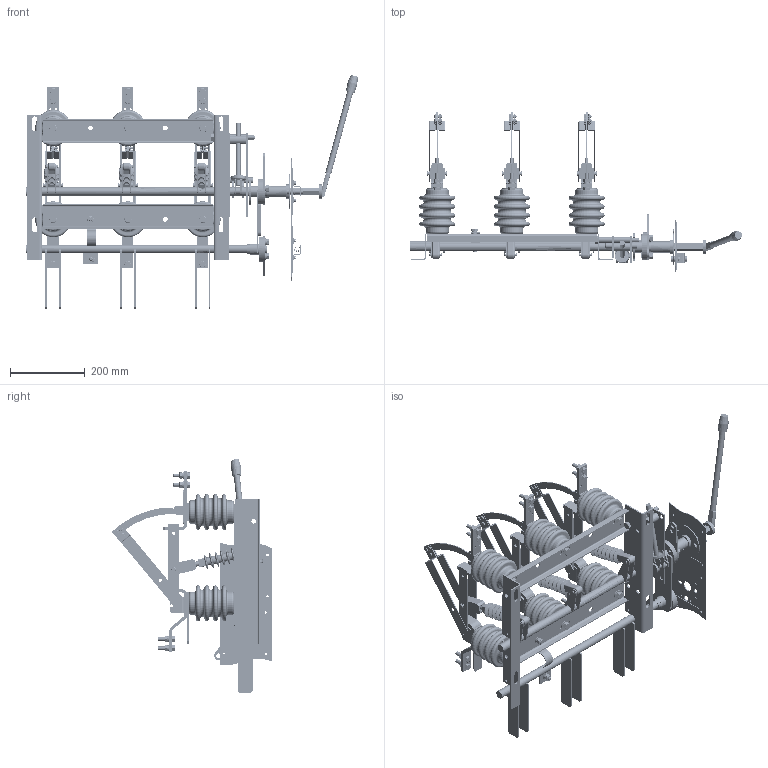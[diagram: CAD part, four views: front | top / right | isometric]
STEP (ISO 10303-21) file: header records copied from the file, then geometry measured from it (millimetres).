
FILE_DESCRIPTION (( 'STEP AP214' ), '1' );
FILE_NAME ('Âûêëþ÷àòåëü íàãðóçêè ÂÍÀ-10630-Ëïð-ç-È2-Ó2.STEP', '2023-02-01T07:39:00', ( '' ), ( '' ), 'SwSTEP 2.0', 'SolidWorks 2018', '' );
FILE_SCHEMA (( 'AUTOMOTIVE_DESIGN' ));
Length unit declared in the file: millimetre
Products named in the file (1): Âûêëþ÷àòåëü íàãðóçêè ÂÍÀ-10630-Ëïð-ç-È2-Ó2
Bounding box: 887.93 x 428.95 x 624.93 mm (x, y, z)
Surface area: 1609803.5 mm2
Topology: 26 solids, 27 shells, 3986 faces, 10045 edges, 6309 vertices
Faces by surface type: plane 2089, cylinder 1261, cone 430, torus 192, bspline 10, sphere 4
Full cylindrical faces by diameter (mm): 5 x4, 6 x8, 6.2 x8, 6.4 x4, 6.5 x4, 6.716 x2, 7.094 x1, 7.525 x1, 8.375 x1, 9.465 x3, 10 x4, 10.14 x3, 10.5 x1, 11.845 x4, 12 x4, 12.35 x6, 12.977 x3, 13 x1, 13.525 x1, 13.726 x3, 14.203 x4, 14.772 x2, 15.2 x5, 16 x1, 16.139 x1, 16.2 x2, 16.649 x1, 17.332 x1, 20 x1, 22 x2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
Entity records: 191269 total; most frequent: CARTESIAN_POINT 52266, DIRECTION 19860, ORIENTED_EDGE 19752, EDGE_CURVE 9876, AXIS2_PLACEMENT_3D 7500, VERTEX_POINT 6249, LINE 4860, VECTOR 4860
